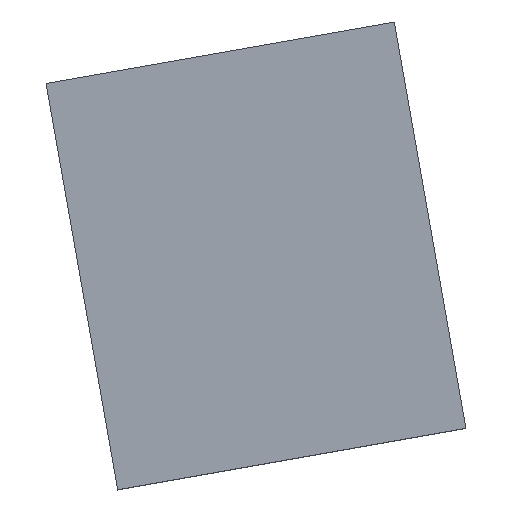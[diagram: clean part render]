
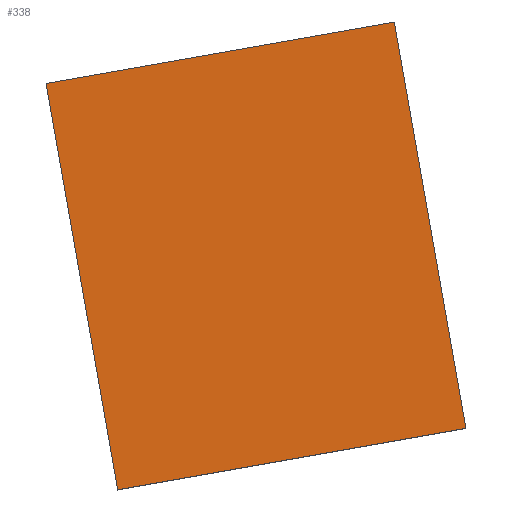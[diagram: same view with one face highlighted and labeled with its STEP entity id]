
A CAD part, top view. The second image highlights one B-rep face of the part: STEP entity #338.
In plain terms, the highlighted planar face has unit normal (0, 0, 1).
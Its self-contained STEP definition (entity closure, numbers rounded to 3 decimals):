
#24 = VERTEX_POINT('',#25);
#25 = CARTESIAN_POINT('',(33.693,-156.527,18.));
#32 = PLANE('',#33);
#33 = AXIS2_PLACEMENT_3D('',#34,#35,#36);
#34 = CARTESIAN_POINT('',(33.693,-156.527,14.));
#35 = DIRECTION('',(0.985,0.174,-0.));
#36 = DIRECTION('',(0.174,-0.985,0.));
#44 = PLANE('',#45);
#45 = AXIS2_PLACEMENT_3D('',#46,#47,#48);
#46 = CARTESIAN_POINT('',(21.875,-158.611,14.));
#47 = DIRECTION('',(-0.174,0.985,0.));
#48 = DIRECTION('',(0.985,0.174,0.));
#56 = EDGE_CURVE('',#24,#57,#59,.T.);
#57 = VERTEX_POINT('',#58);
#58 = CARTESIAN_POINT('',(36.124,-170.315,18.));
#59 = SURFACE_CURVE('',#60,(#64,#71),.PCURVE_S1.);
#60 = LINE('',#61,#62);
#61 = CARTESIAN_POINT('',(33.693,-156.527,18.));
#62 = VECTOR('',#63,1.);
#63 = DIRECTION('',(0.174,-0.985,0.));
#64 = PCURVE('',#32,#65);
#65 = DEFINITIONAL_REPRESENTATION('',(#66),#70);
#66 = LINE('',#67,#68);
#67 = CARTESIAN_POINT('',(0.,-4.));
#68 = VECTOR('',#69,1.);
#69 = DIRECTION('',(1.,0.));
#70 = ( GEOMETRIC_REPRESENTATION_CONTEXT(2) 
PARAMETRIC_REPRESENTATION_CONTEXT() REPRESENTATION_CONTEXT('2D SPACE',''
  ) );
#71 = PCURVE('',#72,#77);
#72 = PLANE('',#73);
#73 = AXIS2_PLACEMENT_3D('',#74,#75,#76);
#74 = CARTESIAN_POINT('',(28.999,-164.463,18.));
#75 = DIRECTION('',(-0.,-0.,-1.));
#76 = DIRECTION('',(-1.,0.,0.));
#77 = DEFINITIONAL_REPRESENTATION('',(#78),#82);
#78 = LINE('',#79,#80);
#79 = CARTESIAN_POINT('',(-4.693,7.936));
#80 = VECTOR('',#81,1.);
#81 = DIRECTION('',(-0.174,-0.985));
#82 = ( GEOMETRIC_REPRESENTATION_CONTEXT(2) 
PARAMETRIC_REPRESENTATION_CONTEXT() REPRESENTATION_CONTEXT('2D SPACE',''
  ) );
#100 = PLANE('',#101);
#101 = AXIS2_PLACEMENT_3D('',#102,#103,#104);
#102 = CARTESIAN_POINT('',(36.124,-170.315,14.));
#103 = DIRECTION('',(0.174,-0.985,0.));
#104 = DIRECTION('',(-0.985,-0.174,0.));
#142 = EDGE_CURVE('',#57,#143,#145,.T.);
#143 = VERTEX_POINT('',#144);
#144 = CARTESIAN_POINT('',(24.306,-172.398,18.));
#145 = SURFACE_CURVE('',#146,(#150,#157),.PCURVE_S1.);
#146 = LINE('',#147,#148);
#147 = CARTESIAN_POINT('',(36.124,-170.315,18.));
#148 = VECTOR('',#149,1.);
#149 = DIRECTION('',(-0.985,-0.174,0.));
#150 = PCURVE('',#100,#151);
#151 = DEFINITIONAL_REPRESENTATION('',(#152),#156);
#152 = LINE('',#153,#154);
#153 = CARTESIAN_POINT('',(0.,-4.));
#154 = VECTOR('',#155,1.);
#155 = DIRECTION('',(1.,0.));
#156 = ( GEOMETRIC_REPRESENTATION_CONTEXT(2) 
PARAMETRIC_REPRESENTATION_CONTEXT() REPRESENTATION_CONTEXT('2D SPACE',''
  ) );
#157 = PCURVE('',#72,#158);
#158 = DEFINITIONAL_REPRESENTATION('',(#159),#163);
#159 = LINE('',#160,#161);
#160 = CARTESIAN_POINT('',(-7.124,-5.852));
#161 = VECTOR('',#162,1.);
#162 = DIRECTION('',(0.985,-0.174));
#163 = ( GEOMETRIC_REPRESENTATION_CONTEXT(2) 
PARAMETRIC_REPRESENTATION_CONTEXT() REPRESENTATION_CONTEXT('2D SPACE',''
  ) );
#181 = PLANE('',#182);
#182 = AXIS2_PLACEMENT_3D('',#183,#184,#185);
#183 = CARTESIAN_POINT('',(24.306,-172.398,14.));
#184 = DIRECTION('',(-0.985,-0.174,0.));
#185 = DIRECTION('',(-0.174,0.985,0.));
#218 = EDGE_CURVE('',#143,#219,#221,.T.);
#219 = VERTEX_POINT('',#220);
#220 = CARTESIAN_POINT('',(21.875,-158.611,18.));
#221 = SURFACE_CURVE('',#222,(#226,#233),.PCURVE_S1.);
#222 = LINE('',#223,#224);
#223 = CARTESIAN_POINT('',(24.306,-172.398,18.));
#224 = VECTOR('',#225,1.);
#225 = DIRECTION('',(-0.174,0.985,0.));
#226 = PCURVE('',#181,#227);
#227 = DEFINITIONAL_REPRESENTATION('',(#228),#232);
#228 = LINE('',#229,#230);
#229 = CARTESIAN_POINT('',(0.,-4.));
#230 = VECTOR('',#231,1.);
#231 = DIRECTION('',(1.,0.));
#232 = ( GEOMETRIC_REPRESENTATION_CONTEXT(2) 
PARAMETRIC_REPRESENTATION_CONTEXT() REPRESENTATION_CONTEXT('2D SPACE',''
  ) );
#233 = PCURVE('',#72,#234);
#234 = DEFINITIONAL_REPRESENTATION('',(#235),#239);
#235 = LINE('',#236,#237);
#236 = CARTESIAN_POINT('',(4.693,-7.936));
#237 = VECTOR('',#238,1.);
#238 = DIRECTION('',(0.174,0.985));
#239 = ( GEOMETRIC_REPRESENTATION_CONTEXT(2) 
PARAMETRIC_REPRESENTATION_CONTEXT() REPRESENTATION_CONTEXT('2D SPACE',''
  ) );
#289 = EDGE_CURVE('',#219,#24,#290,.T.);
#290 = SURFACE_CURVE('',#291,(#295,#302),.PCURVE_S1.);
#291 = LINE('',#292,#293);
#292 = CARTESIAN_POINT('',(21.875,-158.611,18.));
#293 = VECTOR('',#294,1.);
#294 = DIRECTION('',(0.985,0.174,0.));
#295 = PCURVE('',#44,#296);
#296 = DEFINITIONAL_REPRESENTATION('',(#297),#301);
#297 = LINE('',#298,#299);
#298 = CARTESIAN_POINT('',(0.,-4.));
#299 = VECTOR('',#300,1.);
#300 = DIRECTION('',(1.,0.));
#301 = ( GEOMETRIC_REPRESENTATION_CONTEXT(2) 
PARAMETRIC_REPRESENTATION_CONTEXT() REPRESENTATION_CONTEXT('2D SPACE',''
  ) );
#302 = PCURVE('',#72,#303);
#303 = DEFINITIONAL_REPRESENTATION('',(#304),#308);
#304 = LINE('',#305,#306);
#305 = CARTESIAN_POINT('',(7.124,5.852));
#306 = VECTOR('',#307,1.);
#307 = DIRECTION('',(-0.985,0.174));
#308 = ( GEOMETRIC_REPRESENTATION_CONTEXT(2) 
PARAMETRIC_REPRESENTATION_CONTEXT() REPRESENTATION_CONTEXT('2D SPACE',''
  ) );
#338 = ADVANCED_FACE('',(#339),#72,.F.);
#339 = FACE_BOUND('',#340,.F.);
#340 = EDGE_LOOP('',(#341,#342,#343,#344));
#341 = ORIENTED_EDGE('',*,*,#56,.T.);
#342 = ORIENTED_EDGE('',*,*,#142,.T.);
#343 = ORIENTED_EDGE('',*,*,#218,.T.);
#344 = ORIENTED_EDGE('',*,*,#289,.T.);
